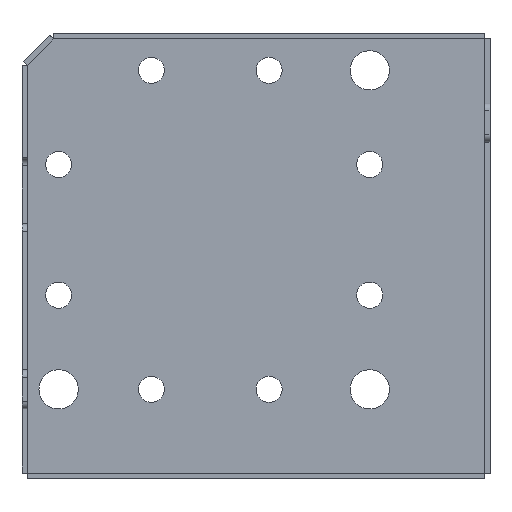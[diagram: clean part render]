
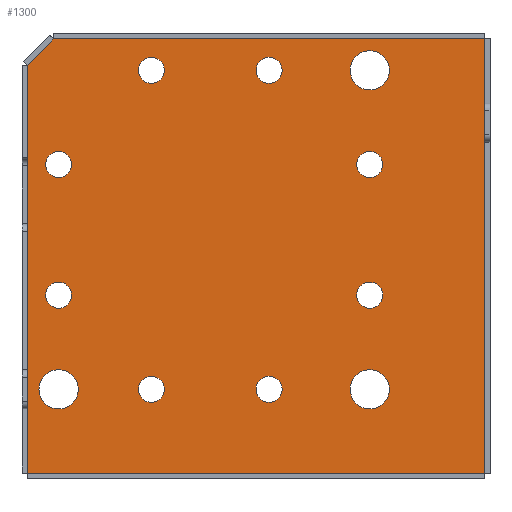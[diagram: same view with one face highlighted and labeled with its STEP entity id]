
A CAD part, front view. The second image highlights one B-rep face of the part: STEP entity #1300.
In plain terms, the highlighted planar face has unit normal (0, -1, 0).
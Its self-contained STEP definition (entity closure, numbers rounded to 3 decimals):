
#119=CARTESIAN_POINT('',(4.35,-0.2,-5.1));
#120=DIRECTION('',(0.,1.,0.));
#121=DIRECTION('',(-1.,0.,0.));
#122=AXIS2_PLACEMENT_3D('',#119,#120,#121);
#124=CARTESIAN_POINT('',(4.35,-0.2,-5.1));
#125=DIRECTION('',(0.,1.,0.));
#126=DIRECTION('',(1.,0.,0.));
#127=AXIS2_PLACEMENT_3D('',#124,#125,#126);
#129=CARTESIAN_POINT('',(-7.55,-0.2,-5.1));
#130=DIRECTION('',(0.,1.,0.));
#131=DIRECTION('',(-1.,0.,0.));
#132=AXIS2_PLACEMENT_3D('',#129,#130,#131);
#134=CARTESIAN_POINT('',(-7.55,-0.2,-5.1));
#135=DIRECTION('',(0.,1.,0.));
#136=DIRECTION('',(1.,0.,0.));
#137=AXIS2_PLACEMENT_3D('',#134,#135,#136);
#139=CARTESIAN_POINT('',(4.35,-0.2,7.1));
#140=DIRECTION('',(0.,1.,0.));
#141=DIRECTION('',(-1.,0.,0.));
#142=AXIS2_PLACEMENT_3D('',#139,#140,#141);
#144=CARTESIAN_POINT('',(4.35,-0.2,7.1));
#145=DIRECTION('',(0.,1.,0.));
#146=DIRECTION('',(1.,0.,0.));
#147=AXIS2_PLACEMENT_3D('',#144,#145,#146);
#149=CARTESIAN_POINT('',(4.35,-0.2,-1.5));
#150=DIRECTION('',(0.,1.,0.));
#151=DIRECTION('',(-1.,0.,0.));
#152=AXIS2_PLACEMENT_3D('',#149,#150,#151);
#154=CARTESIAN_POINT('',(4.35,-0.2,-1.5));
#155=DIRECTION('',(0.,1.,0.));
#156=DIRECTION('',(1.,0.,0.));
#157=AXIS2_PLACEMENT_3D('',#154,#155,#156);
#159=CARTESIAN_POINT('',(4.35,-0.2,3.5));
#160=DIRECTION('',(0.,1.,0.));
#161=DIRECTION('',(-1.,0.,0.));
#162=AXIS2_PLACEMENT_3D('',#159,#160,#161);
#164=CARTESIAN_POINT('',(4.35,-0.2,3.5));
#165=DIRECTION('',(0.,1.,0.));
#166=DIRECTION('',(1.,0.,0.));
#167=AXIS2_PLACEMENT_3D('',#164,#165,#166);
#169=CARTESIAN_POINT('',(0.5,-0.2,7.1));
#170=DIRECTION('',(0.,1.,0.));
#171=DIRECTION('',(-1.,0.,0.));
#172=AXIS2_PLACEMENT_3D('',#169,#170,#171);
#174=CARTESIAN_POINT('',(0.5,-0.2,7.1));
#175=DIRECTION('',(0.,1.,0.));
#176=DIRECTION('',(1.,0.,0.));
#177=AXIS2_PLACEMENT_3D('',#174,#175,#176);
#179=CARTESIAN_POINT('',(-4.,-0.2,7.1));
#180=DIRECTION('',(0.,1.,0.));
#181=DIRECTION('',(-1.,0.,0.));
#182=AXIS2_PLACEMENT_3D('',#179,#180,#181);
#184=CARTESIAN_POINT('',(-4.,-0.2,7.1));
#185=DIRECTION('',(0.,1.,0.));
#186=DIRECTION('',(1.,0.,0.));
#187=AXIS2_PLACEMENT_3D('',#184,#185,#186);
#189=CARTESIAN_POINT('',(0.5,-0.2,-5.1));
#190=DIRECTION('',(0.,1.,0.));
#191=DIRECTION('',(-1.,0.,0.));
#192=AXIS2_PLACEMENT_3D('',#189,#190,#191);
#194=CARTESIAN_POINT('',(0.5,-0.2,-5.1));
#195=DIRECTION('',(0.,1.,0.));
#196=DIRECTION('',(1.,0.,0.));
#197=AXIS2_PLACEMENT_3D('',#194,#195,#196);
#199=CARTESIAN_POINT('',(-4.,-0.2,-5.1));
#200=DIRECTION('',(0.,1.,0.));
#201=DIRECTION('',(-1.,0.,0.));
#202=AXIS2_PLACEMENT_3D('',#199,#200,#201);
#204=CARTESIAN_POINT('',(-4.,-0.2,-5.1));
#205=DIRECTION('',(0.,1.,0.));
#206=DIRECTION('',(1.,0.,0.));
#207=AXIS2_PLACEMENT_3D('',#204,#205,#206);
#209=CARTESIAN_POINT('',(-7.55,-0.2,3.5));
#210=DIRECTION('',(0.,1.,0.));
#211=DIRECTION('',(-1.,0.,0.));
#212=AXIS2_PLACEMENT_3D('',#209,#210,#211);
#214=CARTESIAN_POINT('',(-7.55,-0.2,3.5));
#215=DIRECTION('',(0.,1.,0.));
#216=DIRECTION('',(1.,0.,0.));
#217=AXIS2_PLACEMENT_3D('',#214,#215,#216);
#219=CARTESIAN_POINT('',(-7.55,-0.2,-1.5));
#220=DIRECTION('',(0.,1.,0.));
#221=DIRECTION('',(-1.,0.,0.));
#222=AXIS2_PLACEMENT_3D('',#219,#220,#221);
#224=CARTESIAN_POINT('',(-7.55,-0.2,-1.5));
#225=DIRECTION('',(0.,1.,0.));
#226=DIRECTION('',(1.,0.,0.));
#227=AXIS2_PLACEMENT_3D('',#224,#225,#226);
#309=DIRECTION('',(1.,0.,0.));
#310=VECTOR('',#309,16.5);
#311=CARTESIAN_POINT('',(-7.75,-0.2,8.3));
#312=LINE('',#311,#310);
#375=DIRECTION('',(0.707,0.,0.707));
#376=VECTOR('',#375,1.414);
#377=CARTESIAN_POINT('',(-8.75,-0.2,7.3));
#378=LINE('',#377,#376);
#407=DIRECTION('',(0.,0.,1.));
#408=VECTOR('',#407,15.6);
#409=CARTESIAN_POINT('',(-8.75,-0.2,-8.3));
#410=LINE('',#409,#408);
#641=DIRECTION('',(-1.,0.,0.));
#642=VECTOR('',#641,17.5);
#643=CARTESIAN_POINT('',(8.75,-0.2,-8.3));
#644=LINE('',#643,#642);
#711=DIRECTION('',(0.,0.,-1.));
#712=VECTOR('',#711,16.6);
#713=CARTESIAN_POINT('',(8.75,-0.2,8.3));
#714=LINE('',#713,#712);
#877=CARTESIAN_POINT('',(-8.75,-0.2,7.3));
#879=VERTEX_POINT('',#877);
#882=CARTESIAN_POINT('',(-8.75,-0.2,-8.3));
#884=VERTEX_POINT('',#882);
#895=CARTESIAN_POINT('',(8.75,-0.2,8.3));
#897=VERTEX_POINT('',#895);
#901=CARTESIAN_POINT('',(-7.75,-0.2,8.3));
#902=VERTEX_POINT('',#901);
#913=CARTESIAN_POINT('',(8.75,-0.2,-8.3));
#915=VERTEX_POINT('',#913);
#1007=CARTESIAN_POINT('',(3.6,-0.2,7.1));
#1008=CARTESIAN_POINT('',(5.1,-0.2,7.1));
#1009=VERTEX_POINT('',#1007);
#1010=VERTEX_POINT('',#1008);
#1019=CARTESIAN_POINT('',(-8.3,-0.2,-5.1));
#1020=CARTESIAN_POINT('',(-6.8,-0.2,-5.1));
#1021=VERTEX_POINT('',#1019);
#1022=VERTEX_POINT('',#1020);
#1023=CARTESIAN_POINT('',(3.6,-0.2,-5.1));
#1024=CARTESIAN_POINT('',(5.1,-0.2,-5.1));
#1025=VERTEX_POINT('',#1023);
#1026=VERTEX_POINT('',#1024);
#1059=CARTESIAN_POINT('',(-8.049,-0.2,-1.5));
#1060=CARTESIAN_POINT('',(-7.051,-0.2,-1.5));
#1061=VERTEX_POINT('',#1059);
#1062=VERTEX_POINT('',#1060);
#1063=CARTESIAN_POINT('',(-8.049,-0.2,3.5));
#1064=CARTESIAN_POINT('',(-7.051,-0.2,3.5));
#1065=VERTEX_POINT('',#1063);
#1066=VERTEX_POINT('',#1064);
#1067=CARTESIAN_POINT('',(-4.499,-0.2,-5.1));
#1068=CARTESIAN_POINT('',(-3.501,-0.2,-5.1));
#1069=VERTEX_POINT('',#1067);
#1070=VERTEX_POINT('',#1068);
#1071=CARTESIAN_POINT('',(0.001,-0.2,-5.1));
#1072=CARTESIAN_POINT('',(0.999,-0.2,-5.1));
#1073=VERTEX_POINT('',#1071);
#1074=VERTEX_POINT('',#1072);
#1075=CARTESIAN_POINT('',(-4.499,-0.2,7.1));
#1076=CARTESIAN_POINT('',(-3.501,-0.2,7.1));
#1077=VERTEX_POINT('',#1075);
#1078=VERTEX_POINT('',#1076);
#1079=CARTESIAN_POINT('',(0.001,-0.2,7.1));
#1080=CARTESIAN_POINT('',(0.999,-0.2,7.1));
#1081=VERTEX_POINT('',#1079);
#1082=VERTEX_POINT('',#1080);
#1083=CARTESIAN_POINT('',(3.851,-0.2,3.5));
#1084=CARTESIAN_POINT('',(4.849,-0.2,3.5));
#1085=VERTEX_POINT('',#1083);
#1086=VERTEX_POINT('',#1084);
#1087=CARTESIAN_POINT('',(3.851,-0.2,-1.5));
#1088=CARTESIAN_POINT('',(4.849,-0.2,-1.5));
#1089=VERTEX_POINT('',#1087);
#1090=VERTEX_POINT('',#1088);
#1219=CARTESIAN_POINT('',(0.,-0.2,0.));
#1220=DIRECTION('',(0.,1.,0.));
#1221=DIRECTION('',(1.,0.,0.));
#1222=AXIS2_PLACEMENT_3D('',#1219,#1220,#1221);
#1223=PLANE('',#1222);
#1225=ORIENTED_EDGE('',*,*,#1224,.T.);
#1227=ORIENTED_EDGE('',*,*,#1226,.T.);
#1229=ORIENTED_EDGE('',*,*,#1228,.T.);
#1231=ORIENTED_EDGE('',*,*,#1230,.T.);
#1233=ORIENTED_EDGE('',*,*,#1232,.T.);
#1234=EDGE_LOOP('',(#1225,#1227,#1229,#1231,#1233));
#1235=FACE_OUTER_BOUND('',#1234,.F.);
#1237=ORIENTED_EDGE('',*,*,#1236,.F.);
#1239=ORIENTED_EDGE('',*,*,#1238,.F.);
#1240=EDGE_LOOP('',(#1237,#1239));
#1241=FACE_BOUND('',#1240,.F.);
#1243=ORIENTED_EDGE('',*,*,#1242,.F.);
#1245=ORIENTED_EDGE('',*,*,#1244,.F.);
#1246=EDGE_LOOP('',(#1243,#1245));
#1247=FACE_BOUND('',#1246,.F.);
#1248=ORIENTED_EDGE('',*,*,#1199,.F.);
#1249=ORIENTED_EDGE('',*,*,#1213,.F.);
#1250=EDGE_LOOP('',(#1248,#1249));
#1251=FACE_BOUND('',#1250,.F.);
#1253=ORIENTED_EDGE('',*,*,#1252,.F.);
#1255=ORIENTED_EDGE('',*,*,#1254,.F.);
#1256=EDGE_LOOP('',(#1253,#1255));
#1257=FACE_BOUND('',#1256,.F.);
#1259=ORIENTED_EDGE('',*,*,#1258,.F.);
#1261=ORIENTED_EDGE('',*,*,#1260,.F.);
#1262=EDGE_LOOP('',(#1259,#1261));
#1263=FACE_BOUND('',#1262,.F.);
#1265=ORIENTED_EDGE('',*,*,#1264,.F.);
#1267=ORIENTED_EDGE('',*,*,#1266,.F.);
#1268=EDGE_LOOP('',(#1265,#1267));
#1269=FACE_BOUND('',#1268,.F.);
#1271=ORIENTED_EDGE('',*,*,#1270,.F.);
#1273=ORIENTED_EDGE('',*,*,#1272,.F.);
#1274=EDGE_LOOP('',(#1271,#1273));
#1275=FACE_BOUND('',#1274,.F.);
#1277=ORIENTED_EDGE('',*,*,#1276,.F.);
#1279=ORIENTED_EDGE('',*,*,#1278,.F.);
#1280=EDGE_LOOP('',(#1277,#1279));
#1281=FACE_BOUND('',#1280,.F.);
#1283=ORIENTED_EDGE('',*,*,#1282,.F.);
#1285=ORIENTED_EDGE('',*,*,#1284,.F.);
#1286=EDGE_LOOP('',(#1283,#1285));
#1287=FACE_BOUND('',#1286,.F.);
#1289=ORIENTED_EDGE('',*,*,#1288,.F.);
#1291=ORIENTED_EDGE('',*,*,#1290,.F.);
#1292=EDGE_LOOP('',(#1289,#1291));
#1293=FACE_BOUND('',#1292,.F.);
#1295=ORIENTED_EDGE('',*,*,#1294,.F.);
#1297=ORIENTED_EDGE('',*,*,#1296,.F.);
#1298=EDGE_LOOP('',(#1295,#1297));
#1299=FACE_BOUND('',#1298,.F.);
#1300=ADVANCED_FACE('',(#1235,#1241,#1247,#1251,#1257,#1263,#1269,#1275,#1281,
#1287,#1293,#1299),#1223,.F.);
#123=CIRCLE('',#122,0.75);
#128=CIRCLE('',#127,0.75);
#133=CIRCLE('',#132,0.75);
#138=CIRCLE('',#137,0.75);
#143=CIRCLE('',#142,0.75);
#148=CIRCLE('',#147,0.75);
#153=CIRCLE('',#152,0.499);
#158=CIRCLE('',#157,0.499);
#163=CIRCLE('',#162,0.499);
#168=CIRCLE('',#167,0.499);
#173=CIRCLE('',#172,0.499);
#178=CIRCLE('',#177,0.499);
#183=CIRCLE('',#182,0.499);
#188=CIRCLE('',#187,0.499);
#193=CIRCLE('',#192,0.499);
#198=CIRCLE('',#197,0.499);
#203=CIRCLE('',#202,0.499);
#208=CIRCLE('',#207,0.499);
#213=CIRCLE('',#212,0.499);
#218=CIRCLE('',#217,0.499);
#223=CIRCLE('',#222,0.499);
#228=CIRCLE('',#227,0.499);
#1199=EDGE_CURVE('',#1009,#1010,#143,.T.);
#1213=EDGE_CURVE('',#1010,#1009,#148,.T.);
#1224=EDGE_CURVE('',#902,#897,#312,.T.);
#1226=EDGE_CURVE('',#897,#915,#714,.T.);
#1228=EDGE_CURVE('',#915,#884,#644,.T.);
#1230=EDGE_CURVE('',#884,#879,#410,.T.);
#1232=EDGE_CURVE('',#879,#902,#378,.T.);
#1236=EDGE_CURVE('',#1025,#1026,#123,.T.);
#1238=EDGE_CURVE('',#1026,#1025,#128,.T.);
#1242=EDGE_CURVE('',#1021,#1022,#133,.T.);
#1244=EDGE_CURVE('',#1022,#1021,#138,.T.);
#1252=EDGE_CURVE('',#1089,#1090,#153,.T.);
#1254=EDGE_CURVE('',#1090,#1089,#158,.T.);
#1258=EDGE_CURVE('',#1085,#1086,#163,.T.);
#1260=EDGE_CURVE('',#1086,#1085,#168,.T.);
#1264=EDGE_CURVE('',#1081,#1082,#173,.T.);
#1266=EDGE_CURVE('',#1082,#1081,#178,.T.);
#1270=EDGE_CURVE('',#1077,#1078,#183,.T.);
#1272=EDGE_CURVE('',#1078,#1077,#188,.T.);
#1276=EDGE_CURVE('',#1073,#1074,#193,.T.);
#1278=EDGE_CURVE('',#1074,#1073,#198,.T.);
#1282=EDGE_CURVE('',#1069,#1070,#203,.T.);
#1284=EDGE_CURVE('',#1070,#1069,#208,.T.);
#1288=EDGE_CURVE('',#1065,#1066,#213,.T.);
#1290=EDGE_CURVE('',#1066,#1065,#218,.T.);
#1294=EDGE_CURVE('',#1061,#1062,#223,.T.);
#1296=EDGE_CURVE('',#1062,#1061,#228,.T.);
